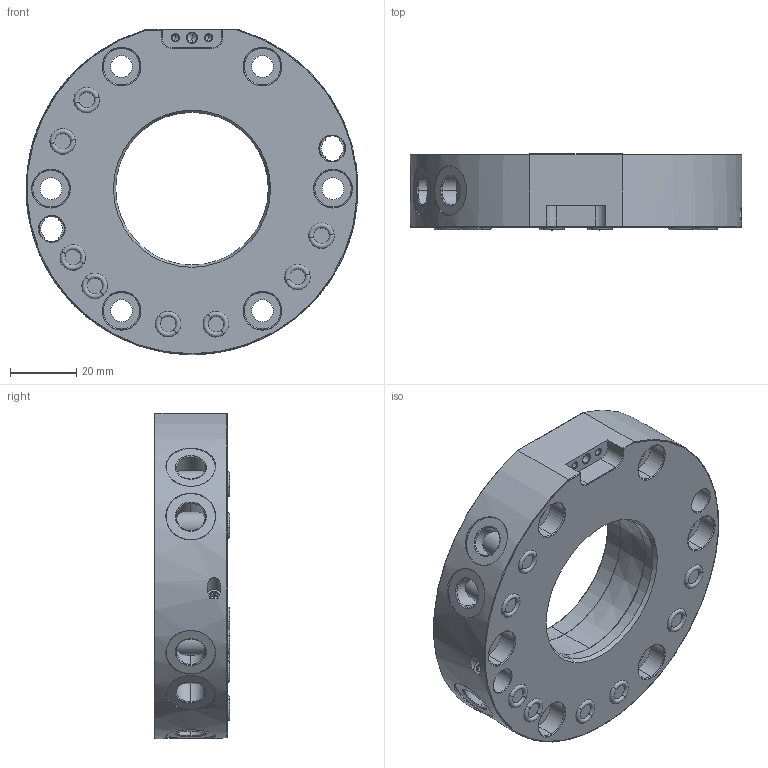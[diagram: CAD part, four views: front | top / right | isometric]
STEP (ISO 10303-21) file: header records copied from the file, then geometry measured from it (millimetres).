
FILE_DESCRIPTION (( 'STEP AP203' ), '1' );
FILE_NAME ('TSKP-T50-00 萵攫掛极.STEP', '2021-08-12T09:31:15', ( '' ), ( '' ), 'SwSTEP 2.0', 'SolidWorks 2018', '' );
FILE_SCHEMA (( 'CONFIG_CONTROL_DESIGN' ));
Length unit declared in the file: millimetre
Products named in the file (1): TSKP-T50-00 萵攫掛极
Bounding box: 99.96 x 22.75 x 98 mm (x, y, z)
Volume: 119322 mm3; surface area: 30466.1 mm2
Topology: 1 solids, 8 shells, 581 faces, 1320 edges, 793 vertices
Faces by surface type: plane 197, cylinder 175, cone 109, torus 84, bspline 16
Entity records: 18320 total; most frequent: CARTESIAN_POINT 5009, DIRECTION 2996, ORIENTED_EDGE 2596, EDGE_CURVE 1298, AXIS2_PLACEMENT_3D 1246, VERTEX_POINT 793, CIRCLE 680, EDGE_LOOP 671
